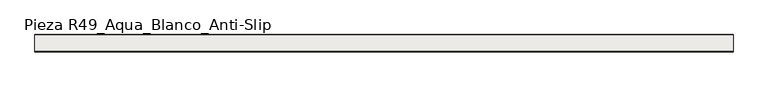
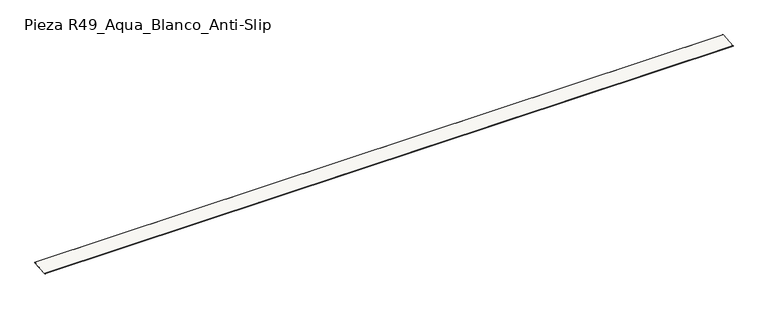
"""IFC4 building model written with IfcOpenShell, lengths in millimetres: slab geometry, ROSA GRES_R49 : Pieza R49_Aqua_Blanco_Anti-Slip."""

from ifc_helpers import new_model, si_unit, point, frame, frame_2d, origin, place, context, project, spatial, polyline, circle_curve, trimmed, segment, composite_curve, outline, extrude, source, transform, mapped, element, save


def pieza_r49_aqua_blanco_anti_slip_cb5288bd(model_context):
    return source(origin(), model_context, "Body", "SweptSolid", [
        extrude(outline(composite_curve([segment(polyline([(70.1539646, 196.3880826), (70.0315861, 197.89159)]), True, "CONTINUOUS"), segment(trimmed(circle_curve(frame_2d((77.8482549, 197.189121)), 7.8481701), [point((70.0315861, 197.89159))], [point((76.6234074, 204.9411222))], False, "CARTESIAN"), True, "CONTINUOUS"), segment(polyline([(76.6234074, 204.9411222), (364.6716123, 228.3869063)]), True, "CONTINUOUS"), segment(trimmed(circle_curve(frame_2d((364.7862135, 226.9789488)), 1.4126139), [point((364.6716123, 228.3869063))], [point((365.5494776, 228.1676059))], False, "CARTESIAN"), True, "CONTINUOUS"), segment(polyline([(365.5494776, 228.1676059), (366.1749837, 220.4828167), (70.1539646, 196.3880826)]), True, "CONTINUOUS")], self_intersect=False)), frame((0.0, 0.0, 0.0), z_axis=(1.0, 0.0, 0.0), x_axis=(0.0, 1.0, 0.0)), (0.0, 0.0, 1.0), 12000.0),
    ])


if __name__ == "__main__":
    model = new_model("IFC4")
    model_context = context("Model", 3, world=origin())
    ifc_project = project(units=[si_unit("LENGTHUNIT", "METRE", prefix="MILLI")], contexts=[model_context])
    site = spatial("IfcSite", under=ifc_project)
    building = spatial("IfcBuilding", under=site)
    placement = place(None, origin())
    pieza_r49_aqua_blanco_anti_slip_shape = pieza_r49_aqua_blanco_anti_slip_cb5288bd(model_context)
    element("IfcSlab", 1, ObjectType="ROSA GRES_R49 : Pieza R49_Aqua_Blanco_Anti-Slip", at=placement, inside=building, context=model_context, shape_type="MappedRepresentation", body=[
        mapped(pieza_r49_aqua_blanco_anti_slip_shape, transform((0.0, 0.0, 0.0), x_axis=(1.0, 0.0, 0.0), y_axis=(0.0, 1.0, 0.0), z_axis=(0.0, 0.0, 1.0))),
    ])
    save(model, "model.ifc")
